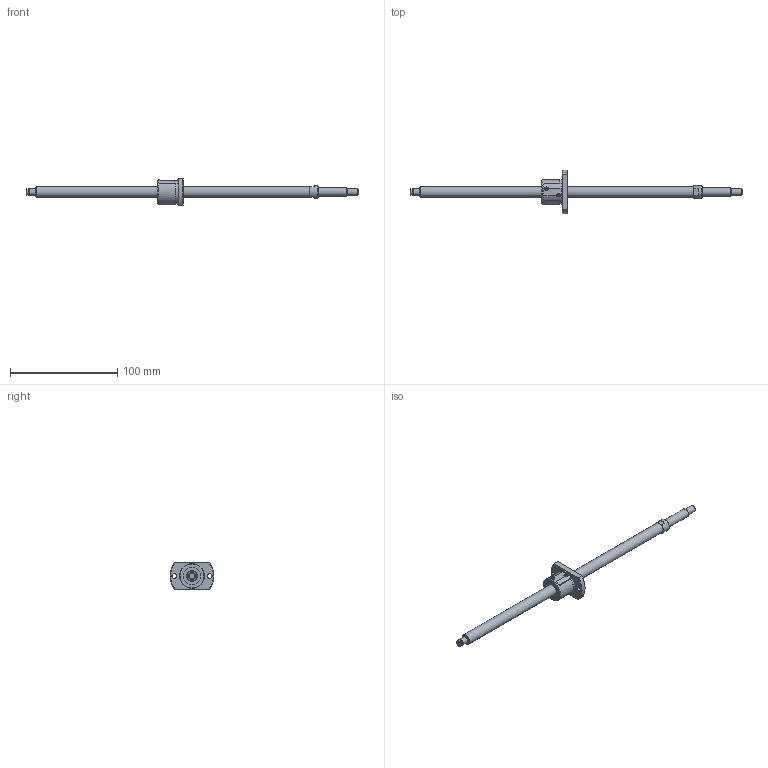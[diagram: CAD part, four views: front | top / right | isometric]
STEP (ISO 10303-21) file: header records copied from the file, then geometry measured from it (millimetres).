
FILE_DESCRIPTION(/* description */ ('STEP AP214'),/* implementation_level */ '2;1');
FILE_NAME(/* name */ 'SG1002-252R310C5B0X(114)',/* time_stamp */ '2026-07-24T15:14:33+02:00',/* author */ ('License CC BY-ND 4.0'),/* organization */ ('CADENAS'),/* preprocessor_version */ 'ST-DEVELOPER v20',/* originating_system */ 'PARTsolutions',/* authorisation */ ' ');
FILE_SCHEMA (('AUTOMOTIVE_DESIGN {1 0 10303 214 3 1 1}'));
Length unit declared in the file: millimetre
Products named in the file (3): SG1002-252R310C5B0X(114); SG1002-252R310C5B_shaft; SG1002 C5_nut
Assembly tree (2 placements, depth 2):
  SG1002-252R310C5B0X(114)
    SG1002-252R310C5B_shaft
    SG1002 C5_nut
Bounding box: 310 x 41 x 25 mm (x, y, z)
Volume: 32926.9 mm3; surface area: 14141.6 mm2
Topology: 2 solids, 2 shells, 79 faces, 188 edges, 123 vertices
Faces by surface type: plane 38, cylinder 26, cone 14, torus 1
Full cylindrical faces by diameter (mm): 4.5 x2, 5.7 x1, 6 x3, 8 x1, 10 x2, 11.5 x1, 16 x2, 22.6 x1, 23 x1
Entity records: 2197 total; most frequent: CARTESIAN_POINT 408, DIRECTION 374, ORIENTED_EDGE 306, AXIS2_PLACEMENT_3D 157, EDGE_CURVE 153, EDGE_LOOP 120, FACE_BOUND 120, VERTEX_POINT 113
